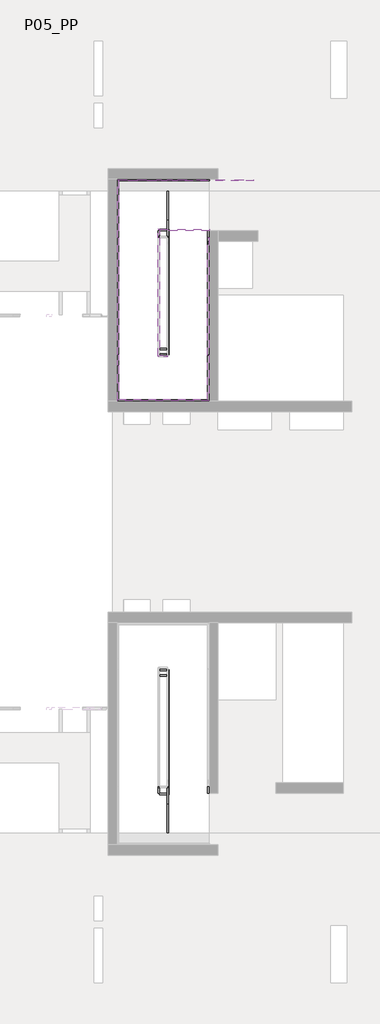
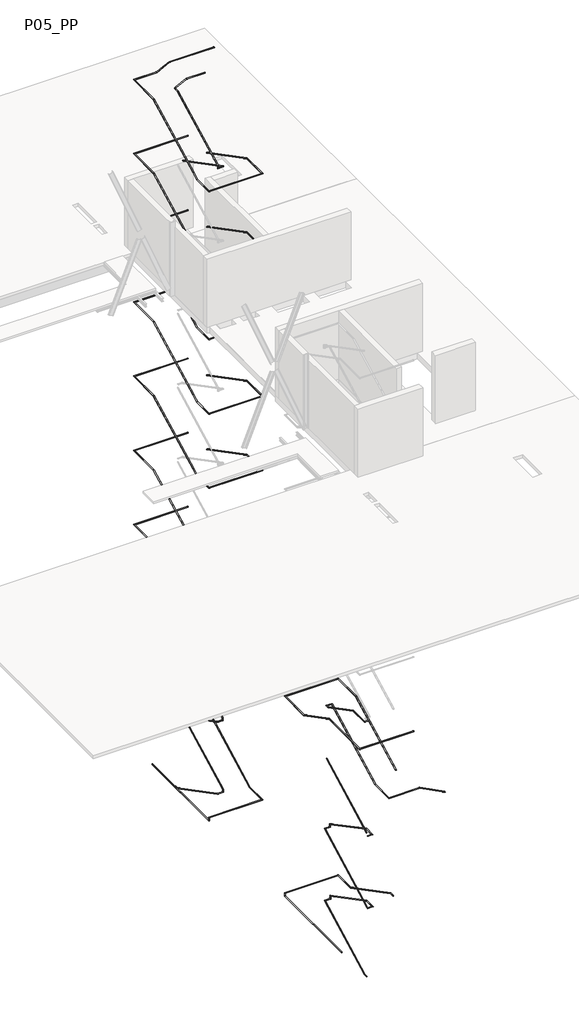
# One storey, part 7 of 7: 15 railings.
"""IFC4 building model written with IfcOpenShell, lengths in millimetres."""

from ifc_helpers import new_model, si_unit, frame, origin, place, context, project, spatial, circle_curve, ellipse_curve, transform, mapped, element, save
from ifc_brep_helpers import plane_surface, cylinder_surface, advanced_brep
from components import railing_900mm_pipe_top_rail_91aa5f4a, railing_900mm_pipe_top_rail_560b4fde, railing_900mm_pipe_top_rail_b0c08502, railing_900mm_pipe_top_rail_e3d62f47, railing_900mm_pipe_top_rail_d9892091, railing_900mm_pipe_top_rail_f8b790fc, railing_900mm_pipe_top_rail_945ddb10, railing_900mm_pipe_top_rail_a4c81e61, railing_900mm_pipe_top_rail_01716a69, railing_900mm_pipe_top_rail_24617872, railing_900mm_pipe_top_rail_c506623c, railing_900mm_pipe_top_rail_b9cd46f8, railing_900mm_pipe_top_rail_68615e7b, railing_900mm_pipe_top_rail_45b8a4e9

model = new_model("IFC4")

# Units and contexts
model_context = context("Model", 3, world=origin())
ifc_project = project(units=[si_unit("LENGTHUNIT", "METRE", prefix="MILLI")], contexts=[model_context])

# Site, building, storey
site = spatial("IfcSite", under=ifc_project)
building = spatial("IfcBuilding", under=site)
storey = spatial("IfcBuildingStorey", under=building, Name="P05_PP", Elevation=26160.0)

# Railings
placement = place(None, origin())
element("IfcRailing", 1, ObjectType="900mm_Pipe_Top Rail", at=placement, inside=storey, context=model_context, shape_type="AdvancedBrep", body=[
    advanced_brep(
    [(-10835.2146087, 12214.8932827, 27293.6999018), (-10795.2146087, 12214.8932827, 27293.6999018), (-10835.2146087, 8909.9970935, 29015.0000003), (-10795.2146087, 8909.9970935, 29015.0000003), (-10835.2146087, 7659.8960687, 29015.0000003), (-10795.2146087, 7619.8960687, 29015.0000003), (-13345.3216429, 7659.8960687, 29015.0000003), (-13385.3216429, 7619.8960687, 29015.0000003), (-13345.3216429, 8619.7894719, 29015.0000003), (-13385.3216429, 8619.7894719, 29015.0000003), (-13345.3216429, 8924.1319711, 29173.5117186), (-13385.3216429, 8924.1319711, 29173.5117186), (-13345.3216429, 12219.7894719, 30890.0000003), (-13385.3216429, 12219.7894719, 30890.0000003), (-13345.3216429, 13819.8960677, 30890.0000003), (-13385.3216429, 13859.8960677, 30890.0000003), (-10790.2146087, 13819.8960677, 30890.0000003), (-10790.2146087, 13859.8960677, 30890.0000003)],
    [
        (0, 1, ellipse_curve(frame((-10815.2146087, 12214.8932827, 27293.6999018), z_axis=(0.0, 1.0, 0.0), x_axis=(0.0, 0.0, -1.0)), 22.5500985, 20.0)),
        (1, 0, ellipse_curve(frame((-10815.2146087, 12214.8932827, 27293.6999018), z_axis=(0.0, 1.0, 0.0), x_axis=(0.0, 0.0, -1.0)), 22.5500985, 20.0)),
        (0, 2),
        (2, 3, ellipse_curve(frame((-10815.2146087, 8909.9970935, 29015.0000003), z_axis=(0.0, 0.9713171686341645, -0.23778763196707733), x_axis=(0.0, -0.2377876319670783, -0.9713171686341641)), 20.5905966, 20.0)),
        (3, 1),
        (3, 2, ellipse_curve(frame((-10815.2146087, 8909.9970935, 29015.0000003), z_axis=(0.0, 0.9713171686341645, -0.23778763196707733), x_axis=(0.0, -0.2377876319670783, -0.9713171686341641)), 20.5905966, 20.0)),
        (2, 4),
        (4, 5, ellipse_curve(frame((-10815.2146087, 7639.8960687, 29015.0000003), z_axis=(0.70710678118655, 0.707106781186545, 0.0), x_axis=(-0.707106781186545, 0.70710678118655, 0.0)), 28.2842712, 20.0)),
        (5, 3),
        (5, 4, ellipse_curve(frame((-10815.2146087, 7639.8960687, 29015.0000003), z_axis=(0.70710678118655, 0.707106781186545, 0.0), x_axis=(-0.707106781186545, 0.70710678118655, 0.0)), 28.2842712, 20.0)),
        (4, 6),
        (6, 7, ellipse_curve(frame((-13365.3216429, 7639.8960687, 29015.0000003), z_axis=(0.707106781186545, -0.70710678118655, 0.0), x_axis=(0.70710678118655, 0.707106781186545, 0.0)), 28.2842712, 20.0)),
        (7, 5),
        (7, 6, ellipse_curve(frame((-13365.3216429, 7639.8960687, 29015.0000003), z_axis=(0.707106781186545, -0.70710678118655, 0.0), x_axis=(0.70710678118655, 0.707106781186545, 0.0)), 28.2842712, 20.0)),
        (6, 8),
        (8, 9, ellipse_curve(frame((-13365.3216429, 8619.7894719, 29015.0000003), z_axis=(0.0, -0.9713171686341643, -0.23778763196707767), x_axis=(0.0, -0.23778763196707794, 0.9713171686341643)), 20.5905966, 20.0)),
        (9, 7),
        (9, 8, ellipse_curve(frame((-13365.3216429, 8619.7894719, 29015.0000003), z_axis=(0.0, -0.9713171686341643, -0.23778763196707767), x_axis=(0.0, -0.23778763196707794, 0.9713171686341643)), 20.5905966, 20.0)),
        (8, 10),
        (10, 11, circle_curve(frame((-13365.3216429, 8924.1319711, 29173.5117186), z_axis=(0.0, -0.8869140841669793, -0.4619344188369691), x_axis=(-1.0, 0.0, 0.0)), 20.0)),
        (11, 9),
        (11, 10, circle_curve(frame((-13365.3216429, 8924.1319711, 29173.5117186), z_axis=(0.0, -0.8869140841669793, -0.4619344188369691), x_axis=(-1.0, 0.0, 0.0)), 20.0)),
        (10, 12),
        (12, 13, ellipse_curve(frame((-13365.3216429, 12219.7894719, 30890.0000003), z_axis=(0.0, -0.9713171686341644, -0.23778763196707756), x_axis=(0.0, 0.23778763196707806, -0.9713171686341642)), 20.5905966, 20.0)),
        (13, 11),
        (13, 12, ellipse_curve(frame((-13365.3216429, 12219.7894719, 30890.0000003), z_axis=(0.0, -0.9713171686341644, -0.23778763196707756), x_axis=(0.0, 0.23778763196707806, -0.9713171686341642)), 20.5905966, 20.0)),
        (12, 14),
        (14, 15, ellipse_curve(frame((-13365.3216429, 13839.8960677, 30890.0000003), z_axis=(-0.7071067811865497, -0.7071067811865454, 0.0), x_axis=(0.7071067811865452, -0.7071067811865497, 0.0)), 28.2842712, 20.0)),
        (15, 13),
        (15, 14, ellipse_curve(frame((-13365.3216429, 13839.8960677, 30890.0000003), z_axis=(-0.7071067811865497, -0.7071067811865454, 0.0), x_axis=(0.7071067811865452, -0.7071067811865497, 0.0)), 28.2842712, 20.0)),
        (16, 17, circle_curve(frame((-10790.2146087, 13839.8960677, 30890.0000003), z_axis=(1.0, 0.0, 0.0), x_axis=(0.0, 1.0, 0.0)), 20.0)),
        (17, 16, circle_curve(frame((-10790.2146087, 13839.8960677, 30890.0000003), z_axis=(1.0, 0.0, 0.0), x_axis=(0.0, 1.0, 0.0)), 20.0)),
        (14, 16),
        (17, 15),
    ],
    [
        plane_surface(frame((-10815.2146087, 12214.8932827, 27316.2500003), z_axis=(0.0, 1.0, 0.0), x_axis=(0.0, 0.0, -1.0))),
        cylinder_surface(frame((-10815.2146087, 12205.6545943, 27298.5117186), z_axis=(0.0, 0.8869140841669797, -0.46193441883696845), x_axis=(1.0, 0.0, 0.0)), 20.0),
        cylinder_surface(frame((-10815.2146087, 8914.8932827, 29015.0000003), z_axis=(0.0, 1.0, 0.0), x_axis=(1.0, 0.0, 0.0)), 20.0),
        cylinder_surface(frame((-10815.2146087, 7639.8960687, 29015.0000003), z_axis=(1.0, 0.0, 0.0), x_axis=(0.0, -1.0, 0.0)), 20.0),
        cylinder_surface(frame((-13365.3216429, 7639.8960687, 29015.0000003), z_axis=(0.0, -1.0, 0.0), x_axis=(-1.0, 0.0, 0.0)), 20.0),
        cylinder_surface(frame((-13365.3216429, 8624.1319711, 29017.2617186), z_axis=(0.0, -0.8869140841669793, -0.4619344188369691), x_axis=(-1.0, 0.0, 0.0)), 20.0),
        cylinder_surface(frame((-13365.3216429, 8924.1319711, 29173.5117186), z_axis=(0.0, -0.8869140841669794, -0.4619344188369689), x_axis=(-1.0, 0.0, 0.0)), 20.0),
        cylinder_surface(frame((-13365.3216429, 12214.8932827, 30890.0000003), z_axis=(0.0, -1.0, 0.0), x_axis=(-1.0, 0.0, 0.0)), 20.0),
        plane_surface(frame((-10790.2146087, 13839.8960677, 30910.0000003), z_axis=(1.0, 0.0, 0.0), x_axis=(0.0, 1.0, 0.0))),
        cylinder_surface(frame((-13365.3216429, 13839.8960677, 30890.0000003), z_axis=(-1.0, 0.0, 0.0), x_axis=(0.0, 1.0, 0.0)), 20.0),
    ],
    [
        (0, [[1, 2]]),
        (1, [[-1, 3, 4, 5]]),
        (1, [[-2, -5, 6, -3]]),
        (2, [[-4, 7, 8, 9]]),
        (2, [[-6, -9, 10, -7]]),
        (3, [[-8, 11, 12, 13]]),
        (3, [[-10, -13, 14, -11]]),
        (4, [[-12, 15, 16, 17]]),
        (4, [[-14, -17, 18, -15]]),
        (5, [[-16, 19, 20, 21]]),
        (5, [[-18, -21, 22, -19]]),
        (6, [[-20, 23, 24, 25]]),
        (6, [[-22, -25, 26, -23]]),
        (7, [[-24, 27, 28, 29]]),
        (7, [[-26, -29, 30, -27]]),
        (8, [[31, 32]]),
        (9, [[-28, 33, -32, 34]]),
        (9, [[-30, -34, -31, -33]]),
    ],
),
    advanced_brep(
    [(-10835.2146087, 12214.8932827, 23543.6999018), (-10795.2146087, 12214.8932827, 23543.6999018), (-10835.2146087, 8909.9970935, 25265.0000003), (-10795.2146087, 8909.9970935, 25265.0000003), (-10835.2146087, 7659.8960687, 25265.0000003), (-10795.2146087, 7619.8960687, 25265.0000003), (-13345.3216429, 7659.8960687, 25265.0000003), (-13385.3216429, 7619.8960687, 25265.0000003), (-13345.3216429, 8619.7894719, 25265.0000003), (-13385.3216429, 8619.7894719, 25265.0000003), (-13345.3216429, 8924.1319711, 25423.5117186), (-13385.3216429, 8924.1319711, 25423.5117186), (-13345.3216429, 12219.7894719, 27140.0000003), (-13385.3216429, 12219.7894719, 27140.0000003), (-13345.3216429, 13819.8960677, 27140.0000003), (-13385.3216429, 13859.8960677, 27140.0000003), (-10790.2146087, 13819.8960677, 27140.0000003), (-10790.2146087, 13859.8960677, 27140.0000003)],
    [
        (0, 1, ellipse_curve(frame((-10815.2146087, 12214.8932827, 23543.6999018), z_axis=(0.0, 1.0, 0.0), x_axis=(0.0, 0.0, -1.0)), 22.5500985, 20.0)),
        (1, 0, ellipse_curve(frame((-10815.2146087, 12214.8932827, 23543.6999018), z_axis=(0.0, 1.0, 0.0), x_axis=(0.0, 0.0, -1.0)), 22.5500985, 20.0)),
        (0, 2),
        (2, 3, ellipse_curve(frame((-10815.2146087, 8909.9970935, 25265.0000003), z_axis=(0.0, 0.9713171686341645, -0.23778763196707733), x_axis=(0.0, -0.2377876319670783, -0.9713171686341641)), 20.5905966, 20.0)),
        (3, 1),
        (3, 2, ellipse_curve(frame((-10815.2146087, 8909.9970935, 25265.0000003), z_axis=(0.0, 0.9713171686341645, -0.23778763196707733), x_axis=(0.0, -0.2377876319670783, -0.9713171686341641)), 20.5905966, 20.0)),
        (2, 4),
        (4, 5, ellipse_curve(frame((-10815.2146087, 7639.8960687, 25265.0000003), z_axis=(0.70710678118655, 0.707106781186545, 0.0), x_axis=(-0.707106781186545, 0.70710678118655, 0.0)), 28.2842712, 20.0)),
        (5, 3),
        (5, 4, ellipse_curve(frame((-10815.2146087, 7639.8960687, 25265.0000003), z_axis=(0.70710678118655, 0.707106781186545, 0.0), x_axis=(-0.707106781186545, 0.70710678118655, 0.0)), 28.2842712, 20.0)),
        (4, 6),
        (6, 7, ellipse_curve(frame((-13365.3216429, 7639.8960687, 25265.0000003), z_axis=(0.707106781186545, -0.70710678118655, 0.0), x_axis=(0.70710678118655, 0.707106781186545, 0.0)), 28.2842712, 20.0)),
        (7, 5),
        (7, 6, ellipse_curve(frame((-13365.3216429, 7639.8960687, 25265.0000003), z_axis=(0.707106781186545, -0.70710678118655, 0.0), x_axis=(0.70710678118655, 0.707106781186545, 0.0)), 28.2842712, 20.0)),
        (6, 8),
        (8, 9, ellipse_curve(frame((-13365.3216429, 8619.7894719, 25265.0000003), z_axis=(0.0, -0.9713171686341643, -0.23778763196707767), x_axis=(0.0, -0.23778763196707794, 0.9713171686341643)), 20.5905966, 20.0)),
        (9, 7),
        (9, 8, ellipse_curve(frame((-13365.3216429, 8619.7894719, 25265.0000003), z_axis=(0.0, -0.9713171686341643, -0.23778763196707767), x_axis=(0.0, -0.23778763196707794, 0.9713171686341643)), 20.5905966, 20.0)),
        (8, 10),
        (10, 11, circle_curve(frame((-13365.3216429, 8924.1319711, 25423.5117186), z_axis=(0.0, -0.8869140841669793, -0.4619344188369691), x_axis=(-1.0, 0.0, 0.0)), 20.0)),
        (11, 9),
        (11, 10, circle_curve(frame((-13365.3216429, 8924.1319711, 25423.5117186), z_axis=(0.0, -0.8869140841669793, -0.4619344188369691), x_axis=(-1.0, 0.0, 0.0)), 20.0)),
        (10, 12),
        (12, 13, ellipse_curve(frame((-13365.3216429, 12219.7894719, 27140.0000003), z_axis=(0.0, -0.9713171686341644, -0.23778763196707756), x_axis=(0.0, 0.23778763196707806, -0.9713171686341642)), 20.5905966, 20.0)),
        (13, 11),
        (13, 12, ellipse_curve(frame((-13365.3216429, 12219.7894719, 27140.0000003), z_axis=(0.0, -0.9713171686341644, -0.23778763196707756), x_axis=(0.0, 0.23778763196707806, -0.9713171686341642)), 20.5905966, 20.0)),
        (12, 14),
        (14, 15, ellipse_curve(frame((-13365.3216429, 13839.8960677, 27140.0000003), z_axis=(-0.7071067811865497, -0.7071067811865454, 0.0), x_axis=(0.7071067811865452, -0.7071067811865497, 0.0)), 28.2842712, 20.0)),
        (15, 13),
        (15, 14, ellipse_curve(frame((-13365.3216429, 13839.8960677, 27140.0000003), z_axis=(-0.7071067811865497, -0.7071067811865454, 0.0), x_axis=(0.7071067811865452, -0.7071067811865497, 0.0)), 28.2842712, 20.0)),
        (16, 17, circle_curve(frame((-10790.2146087, 13839.8960677, 27140.0000003), z_axis=(1.0, 0.0, 0.0), x_axis=(0.0, 1.0, 0.0)), 20.0)),
        (17, 16, circle_curve(frame((-10790.2146087, 13839.8960677, 27140.0000003), z_axis=(1.0, 0.0, 0.0), x_axis=(0.0, 1.0, 0.0)), 20.0)),
        (14, 16),
        (17, 15),
    ],
    [
        plane_surface(frame((-10815.2146087, 12214.8932827, 23566.2500003), z_axis=(0.0, 1.0, 0.0), x_axis=(0.0, 0.0, -1.0))),
        cylinder_surface(frame((-10815.2146087, 12205.6545943, 23548.5117186), z_axis=(0.0, 0.8869140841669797, -0.46193441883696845), x_axis=(1.0, 0.0, 0.0)), 20.0),
        cylinder_surface(frame((-10815.2146087, 8914.8932827, 25265.0000003), z_axis=(0.0, 1.0, 0.0), x_axis=(1.0, 0.0, 0.0)), 20.0),
        cylinder_surface(frame((-10815.2146087, 7639.8960687, 25265.0000003), z_axis=(1.0, 0.0, 0.0), x_axis=(0.0, -1.0, 0.0)), 20.0),
        cylinder_surface(frame((-13365.3216429, 7639.8960687, 25265.0000003), z_axis=(0.0, -1.0, 0.0), x_axis=(-1.0, 0.0, 0.0)), 20.0),
        cylinder_surface(frame((-13365.3216429, 8624.1319711, 25267.2617186), z_axis=(0.0, -0.8869140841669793, -0.4619344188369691), x_axis=(-1.0, 0.0, 0.0)), 20.0),
        cylinder_surface(frame((-13365.3216429, 8924.1319711, 25423.5117186), z_axis=(0.0, -0.8869140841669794, -0.4619344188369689), x_axis=(-1.0, 0.0, 0.0)), 20.0),
        cylinder_surface(frame((-13365.3216429, 12214.8932827, 27140.0000003), z_axis=(0.0, -1.0, 0.0), x_axis=(-1.0, 0.0, 0.0)), 20.0),
        plane_surface(frame((-10790.2146087, 13839.8960677, 27160.0000003), z_axis=(1.0, 0.0, 0.0), x_axis=(0.0, 1.0, 0.0))),
        cylinder_surface(frame((-13365.3216429, 13839.8960677, 27140.0000003), z_axis=(-1.0, 0.0, 0.0), x_axis=(0.0, 1.0, 0.0)), 20.0),
    ],
    [
        (0, [[1, 2]]),
        (1, [[-1, 3, 4, 5]]),
        (1, [[-2, -5, 6, -3]]),
        (2, [[-4, 7, 8, 9]]),
        (2, [[-6, -9, 10, -7]]),
        (3, [[-8, 11, 12, 13]]),
        (3, [[-10, -13, 14, -11]]),
        (4, [[-12, 15, 16, 17]]),
        (4, [[-14, -17, 18, -15]]),
        (5, [[-16, 19, 20, 21]]),
        (5, [[-18, -21, 22, -19]]),
        (6, [[-20, 23, 24, 25]]),
        (6, [[-22, -25, 26, -23]]),
        (7, [[-24, 27, 28, 29]]),
        (7, [[-26, -29, 30, -27]]),
        (8, [[31, 32]]),
        (9, [[-28, 33, -32, 34]]),
        (9, [[-30, -34, -31, -33]]),
    ],
),
    advanced_brep(
    [(-10835.2146087, 12214.8932827, 19793.6999018), (-10795.2146087, 12214.8932827, 19793.6999018), (-10835.2146087, 8909.9970935, 21515.0000003), (-10795.2146087, 8909.9970935, 21515.0000003), (-10835.2146087, 7659.8960687, 21515.0000003), (-10795.2146087, 7619.8960687, 21515.0000003), (-13345.3216429, 7659.8960687, 21515.0000003), (-13385.3216429, 7619.8960687, 21515.0000003), (-13345.3216429, 8619.7894719, 21515.0000003), (-13385.3216429, 8619.7894719, 21515.0000003), (-13345.3216429, 8924.1319711, 21673.5117186), (-13385.3216429, 8924.1319711, 21673.5117186), (-13345.3216429, 12219.7894719, 23390.0000003), (-13385.3216429, 12219.7894719, 23390.0000003), (-13345.3216429, 13819.8960677, 23390.0000003), (-13385.3216429, 13859.8960677, 23390.0000003), (-10790.2146087, 13819.8960677, 23390.0000003), (-10790.2146087, 13859.8960677, 23390.0000003)],
    [
        (0, 1, ellipse_curve(frame((-10815.2146087, 12214.8932827, 19793.6999018), z_axis=(0.0, 1.0, 0.0), x_axis=(0.0, 0.0, -1.0)), 22.5500985, 20.0)),
        (1, 0, ellipse_curve(frame((-10815.2146087, 12214.8932827, 19793.6999018), z_axis=(0.0, 1.0, 0.0), x_axis=(0.0, 0.0, -1.0)), 22.5500985, 20.0)),
        (0, 2),
        (2, 3, ellipse_curve(frame((-10815.2146087, 8909.9970935, 21515.0000003), z_axis=(0.0, 0.9713171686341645, -0.23778763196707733), x_axis=(0.0, -0.2377876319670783, -0.9713171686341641)), 20.5905966, 20.0)),
        (3, 1),
        (3, 2, ellipse_curve(frame((-10815.2146087, 8909.9970935, 21515.0000003), z_axis=(0.0, 0.9713171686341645, -0.23778763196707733), x_axis=(0.0, -0.2377876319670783, -0.9713171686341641)), 20.5905966, 20.0)),
        (2, 4),
        (4, 5, ellipse_curve(frame((-10815.2146087, 7639.8960687, 21515.0000003), z_axis=(0.70710678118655, 0.707106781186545, 0.0), x_axis=(-0.707106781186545, 0.70710678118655, 0.0)), 28.2842712, 20.0)),
        (5, 3),
        (5, 4, ellipse_curve(frame((-10815.2146087, 7639.8960687, 21515.0000003), z_axis=(0.70710678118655, 0.707106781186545, 0.0), x_axis=(-0.707106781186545, 0.70710678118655, 0.0)), 28.2842712, 20.0)),
        (4, 6),
        (6, 7, ellipse_curve(frame((-13365.3216429, 7639.8960687, 21515.0000003), z_axis=(0.707106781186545, -0.70710678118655, 0.0), x_axis=(0.70710678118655, 0.707106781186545, 0.0)), 28.2842712, 20.0)),
        (7, 5),
        (7, 6, ellipse_curve(frame((-13365.3216429, 7639.8960687, 21515.0000003), z_axis=(0.707106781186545, -0.70710678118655, 0.0), x_axis=(0.70710678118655, 0.707106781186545, 0.0)), 28.2842712, 20.0)),
        (6, 8),
        (8, 9, ellipse_curve(frame((-13365.3216429, 8619.7894719, 21515.0000003), z_axis=(0.0, -0.9713171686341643, -0.23778763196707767), x_axis=(0.0, -0.23778763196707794, 0.9713171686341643)), 20.5905966, 20.0)),
        (9, 7),
        (9, 8, ellipse_curve(frame((-13365.3216429, 8619.7894719, 21515.0000003), z_axis=(0.0, -0.9713171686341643, -0.23778763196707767), x_axis=(0.0, -0.23778763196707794, 0.9713171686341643)), 20.5905966, 20.0)),
        (8, 10),
        (10, 11, circle_curve(frame((-13365.3216429, 8924.1319711, 21673.5117186), z_axis=(0.0, -0.8869140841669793, -0.4619344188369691), x_axis=(-1.0, 0.0, 0.0)), 20.0)),
        (11, 9),
        (11, 10, circle_curve(frame((-13365.3216429, 8924.1319711, 21673.5117186), z_axis=(0.0, -0.8869140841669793, -0.4619344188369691), x_axis=(-1.0, 0.0, 0.0)), 20.0)),
        (10, 12),
        (12, 13, ellipse_curve(frame((-13365.3216429, 12219.7894719, 23390.0000003), z_axis=(0.0, -0.9713171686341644, -0.23778763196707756), x_axis=(0.0, 0.23778763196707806, -0.9713171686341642)), 20.5905966, 20.0)),
        (13, 11),
        (13, 12, ellipse_curve(frame((-13365.3216429, 12219.7894719, 23390.0000003), z_axis=(0.0, -0.9713171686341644, -0.23778763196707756), x_axis=(0.0, 0.23778763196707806, -0.9713171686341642)), 20.5905966, 20.0)),
        (12, 14),
        (14, 15, ellipse_curve(frame((-13365.3216429, 13839.8960677, 23390.0000003), z_axis=(-0.7071067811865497, -0.7071067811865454, 0.0), x_axis=(0.7071067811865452, -0.7071067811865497, 0.0)), 28.2842712, 20.0)),
        (15, 13),
        (15, 14, ellipse_curve(frame((-13365.3216429, 13839.8960677, 23390.0000003), z_axis=(-0.7071067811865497, -0.7071067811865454, 0.0), x_axis=(0.7071067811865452, -0.7071067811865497, 0.0)), 28.2842712, 20.0)),
        (16, 17, circle_curve(frame((-10790.2146087, 13839.8960677, 23390.0000003), z_axis=(1.0, 0.0, 0.0), x_axis=(0.0, 1.0, 0.0)), 20.0)),
        (17, 16, circle_curve(frame((-10790.2146087, 13839.8960677, 23390.0000003), z_axis=(1.0, 0.0, 0.0), x_axis=(0.0, 1.0, 0.0)), 20.0)),
        (14, 16),
        (17, 15),
    ],
    [
        plane_surface(frame((-10815.2146087, 12214.8932827, 19816.2500003), z_axis=(0.0, 1.0, 0.0), x_axis=(0.0, 0.0, -1.0))),
        cylinder_surface(frame((-10815.2146087, 12205.6545943, 19798.5117186), z_axis=(0.0, 0.8869140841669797, -0.46193441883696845), x_axis=(1.0, 0.0, 0.0)), 20.0),
        cylinder_surface(frame((-10815.2146087, 8914.8932827, 21515.0000003), z_axis=(0.0, 1.0, 0.0), x_axis=(1.0, 0.0, 0.0)), 20.0),
        cylinder_surface(frame((-10815.2146087, 7639.8960687, 21515.0000003), z_axis=(1.0, 0.0, 0.0), x_axis=(0.0, -1.0, 0.0)), 20.0),
        cylinder_surface(frame((-13365.3216429, 7639.8960687, 21515.0000003), z_axis=(0.0, -1.0, 0.0), x_axis=(-1.0, 0.0, 0.0)), 20.0),
        cylinder_surface(frame((-13365.3216429, 8624.1319711, 21517.2617186), z_axis=(0.0, -0.8869140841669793, -0.4619344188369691), x_axis=(-1.0, 0.0, 0.0)), 20.0),
        cylinder_surface(frame((-13365.3216429, 8924.1319711, 21673.5117186), z_axis=(0.0, -0.8869140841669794, -0.4619344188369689), x_axis=(-1.0, 0.0, 0.0)), 20.0),
        cylinder_surface(frame((-13365.3216429, 12214.8932827, 23390.0000003), z_axis=(0.0, -1.0, 0.0), x_axis=(-1.0, 0.0, 0.0)), 20.0),
        plane_surface(frame((-10790.2146087, 13839.8960677, 23410.0000003), z_axis=(1.0, 0.0, 0.0), x_axis=(0.0, 1.0, 0.0))),
        cylinder_surface(frame((-13365.3216429, 13839.8960677, 23390.0000003), z_axis=(-1.0, 0.0, 0.0), x_axis=(0.0, 1.0, 0.0)), 20.0),
    ],
    [
        (0, [[1, 2]]),
        (1, [[-1, 3, 4, 5]]),
        (1, [[-2, -5, 6, -3]]),
        (2, [[-4, 7, 8, 9]]),
        (2, [[-6, -9, 10, -7]]),
        (3, [[-8, 11, 12, 13]]),
        (3, [[-10, -13, 14, -11]]),
        (4, [[-12, 15, 16, 17]]),
        (4, [[-14, -17, 18, -15]]),
        (5, [[-16, 19, 20, 21]]),
        (5, [[-18, -21, 22, -19]]),
        (6, [[-20, 23, 24, 25]]),
        (6, [[-22, -25, 26, -23]]),
        (7, [[-24, 27, 28, 29]]),
        (7, [[-26, -29, 30, -27]]),
        (8, [[31, 32]]),
        (9, [[-28, 33, -32, 34]]),
        (9, [[-30, -34, -31, -33]]),
    ],
),
    advanced_brep(
    [(-10835.2146087, 12214.8932827, 16043.6999018), (-10795.2146087, 12214.8932827, 16043.6999018), (-10835.2146087, 8909.9970935, 17765.0000003), (-10795.2146087, 8909.9970935, 17765.0000003), (-10835.2146087, 7659.8960687, 17765.0000003), (-10795.2146087, 7619.8960687, 17765.0000003), (-13345.3216429, 7659.8960687, 17765.0000003), (-13385.3216429, 7619.8960687, 17765.0000003), (-13345.3216429, 8619.7894719, 17765.0000003), (-13385.3216429, 8619.7894719, 17765.0000003), (-13345.3216429, 8924.1319711, 17923.5117186), (-13385.3216429, 8924.1319711, 17923.5117186), (-13345.3216429, 12219.7894719, 19640.0000003), (-13385.3216429, 12219.7894719, 19640.0000003), (-13345.3216429, 13819.8960677, 19640.0000003), (-13385.3216429, 13859.8960677, 19640.0000003), (-10790.2146087, 13819.8960677, 19640.0000003), (-10790.2146087, 13859.8960677, 19640.0000003)],
    [
        (0, 1, ellipse_curve(frame((-10815.2146087, 12214.8932827, 16043.6999018), z_axis=(0.0, 1.0, 0.0), x_axis=(0.0, 0.0, -1.0)), 22.5500985, 20.0)),
        (1, 0, ellipse_curve(frame((-10815.2146087, 12214.8932827, 16043.6999018), z_axis=(0.0, 1.0, 0.0), x_axis=(0.0, 0.0, -1.0)), 22.5500985, 20.0)),
        (0, 2),
        (2, 3, ellipse_curve(frame((-10815.2146087, 8909.9970935, 17765.0000003), z_axis=(0.0, 0.9713171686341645, -0.23778763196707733), x_axis=(0.0, -0.2377876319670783, -0.9713171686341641)), 20.5905966, 20.0)),
        (3, 1),
        (3, 2, ellipse_curve(frame((-10815.2146087, 8909.9970935, 17765.0000003), z_axis=(0.0, 0.9713171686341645, -0.23778763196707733), x_axis=(0.0, -0.2377876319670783, -0.9713171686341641)), 20.5905966, 20.0)),
        (2, 4),
        (4, 5, ellipse_curve(frame((-10815.2146087, 7639.8960687, 17765.0000003), z_axis=(0.70710678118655, 0.707106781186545, 0.0), x_axis=(-0.707106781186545, 0.70710678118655, 0.0)), 28.2842712, 20.0)),
        (5, 3),
        (5, 4, ellipse_curve(frame((-10815.2146087, 7639.8960687, 17765.0000003), z_axis=(0.70710678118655, 0.707106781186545, 0.0), x_axis=(-0.707106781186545, 0.70710678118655, 0.0)), 28.2842712, 20.0)),
        (4, 6),
        (6, 7, ellipse_curve(frame((-13365.3216429, 7639.8960687, 17765.0000003), z_axis=(0.707106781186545, -0.70710678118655, 0.0), x_axis=(0.70710678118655, 0.707106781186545, 0.0)), 28.2842712, 20.0)),
        (7, 5),
        (7, 6, ellipse_curve(frame((-13365.3216429, 7639.8960687, 17765.0000003), z_axis=(0.707106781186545, -0.70710678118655, 0.0), x_axis=(0.70710678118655, 0.707106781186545, 0.0)), 28.2842712, 20.0)),
        (6, 8),
        (8, 9, ellipse_curve(frame((-13365.3216429, 8619.7894719, 17765.0000003), z_axis=(0.0, -0.9713171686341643, -0.23778763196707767), x_axis=(0.0, -0.23778763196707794, 0.9713171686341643)), 20.5905966, 20.0)),
        (9, 7),
        (9, 8, ellipse_curve(frame((-13365.3216429, 8619.7894719, 17765.0000003), z_axis=(0.0, -0.9713171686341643, -0.23778763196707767), x_axis=(0.0, -0.23778763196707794, 0.9713171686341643)), 20.5905966, 20.0)),
        (8, 10),
        (10, 11, circle_curve(frame((-13365.3216429, 8924.1319711, 17923.5117186), z_axis=(0.0, -0.8869140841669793, -0.4619344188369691), x_axis=(-1.0, 0.0, 0.0)), 20.0)),
        (11, 9),
        (11, 10, circle_curve(frame((-13365.3216429, 8924.1319711, 17923.5117186), z_axis=(0.0, -0.8869140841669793, -0.4619344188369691), x_axis=(-1.0, 0.0, 0.0)), 20.0)),
        (10, 12),
        (12, 13, ellipse_curve(frame((-13365.3216429, 12219.7894719, 19640.0000003), z_axis=(0.0, -0.9713171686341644, -0.23778763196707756), x_axis=(0.0, 0.23778763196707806, -0.9713171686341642)), 20.5905966, 20.0)),
        (13, 11),
        (13, 12, ellipse_curve(frame((-13365.3216429, 12219.7894719, 19640.0000003), z_axis=(0.0, -0.9713171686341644, -0.23778763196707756), x_axis=(0.0, 0.23778763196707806, -0.9713171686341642)), 20.5905966, 20.0)),
        (12, 14),
        (14, 15, ellipse_curve(frame((-13365.3216429, 13839.8960677, 19640.0000003), z_axis=(-0.7071067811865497, -0.7071067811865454, 0.0), x_axis=(0.7071067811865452, -0.7071067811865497, 0.0)), 28.2842712, 20.0)),
        (15, 13),
        (15, 14, ellipse_curve(frame((-13365.3216429, 13839.8960677, 19640.0000003), z_axis=(-0.7071067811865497, -0.7071067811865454, 0.0), x_axis=(0.7071067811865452, -0.7071067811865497, 0.0)), 28.2842712, 20.0)),
        (16, 17, circle_curve(frame((-10790.2146087, 13839.8960677, 19640.0000003), z_axis=(1.0, 0.0, 0.0), x_axis=(0.0, 1.0, 0.0)), 20.0)),
        (17, 16, circle_curve(frame((-10790.2146087, 13839.8960677, 19640.0000003), z_axis=(1.0, 0.0, 0.0), x_axis=(0.0, 1.0, 0.0)), 20.0)),
        (14, 16),
        (17, 15),
    ],
    [
        plane_surface(frame((-10815.2146087, 12214.8932827, 16066.2500003), z_axis=(0.0, 1.0, 0.0), x_axis=(0.0, 0.0, -1.0))),
        cylinder_surface(frame((-10815.2146087, 12205.6545943, 16048.5117186), z_axis=(0.0, 0.8869140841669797, -0.46193441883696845), x_axis=(1.0, 0.0, 0.0)), 20.0),
        cylinder_surface(frame((-10815.2146087, 8914.8932827, 17765.0000003), z_axis=(0.0, 1.0, 0.0), x_axis=(1.0, 0.0, 0.0)), 20.0),
        cylinder_surface(frame((-10815.2146087, 7639.8960687, 17765.0000003), z_axis=(1.0, 0.0, 0.0), x_axis=(0.0, -1.0, 0.0)), 20.0),
        cylinder_surface(frame((-13365.3216429, 7639.8960687, 17765.0000003), z_axis=(0.0, -1.0, 0.0), x_axis=(-1.0, 0.0, 0.0)), 20.0),
        cylinder_surface(frame((-13365.3216429, 8624.1319711, 17767.2617186), z_axis=(0.0, -0.8869140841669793, -0.4619344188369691), x_axis=(-1.0, 0.0, 0.0)), 20.0),
        cylinder_surface(frame((-13365.3216429, 8924.1319711, 17923.5117186), z_axis=(0.0, -0.8869140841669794, -0.4619344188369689), x_axis=(-1.0, 0.0, 0.0)), 20.0),
        cylinder_surface(frame((-13365.3216429, 12214.8932827, 19640.0000003), z_axis=(0.0, -1.0, 0.0), x_axis=(-1.0, 0.0, 0.0)), 20.0),
        plane_surface(frame((-10790.2146087, 13839.8960677, 19660.0000003), z_axis=(1.0, 0.0, 0.0), x_axis=(0.0, 1.0, 0.0))),
        cylinder_surface(frame((-13365.3216429, 13839.8960677, 19640.0000003), z_axis=(-1.0, 0.0, 0.0), x_axis=(0.0, 1.0, 0.0)), 20.0),
    ],
    [
        (0, [[1, 2]]),
        (1, [[-1, 3, 4, 5]]),
        (1, [[-2, -5, 6, -3]]),
        (2, [[-4, 7, 8, 9]]),
        (2, [[-6, -9, 10, -7]]),
        (3, [[-8, 11, 12, 13]]),
        (3, [[-10, -13, 14, -11]]),
        (4, [[-12, 15, 16, 17]]),
        (4, [[-14, -17, 18, -15]]),
        (5, [[-16, 19, 20, 21]]),
        (5, [[-18, -21, 22, -19]]),
        (6, [[-20, 23, 24, 25]]),
        (6, [[-22, -25, 26, -23]]),
        (7, [[-24, 27, 28, 29]]),
        (7, [[-26, -29, 30, -27]]),
        (8, [[31, 32]]),
        (9, [[-28, 33, -32, 34]]),
        (9, [[-30, -34, -31, -33]]),
    ],
),
    advanced_brep(
    [(-10835.2146087, 12214.8932827, 12293.6999015), (-10795.2146087, 12214.8932827, 12293.6999015), (-10835.2146087, 8909.9970935, 14015.0), (-10795.2146087, 8909.9970935, 14015.0), (-10835.2146087, 7659.8960687, 14015.0), (-10795.2146087, 7619.8960687, 14015.0), (-13345.3216429, 7659.8960687, 14015.0), (-13385.3216429, 7619.8960687, 14015.0), (-13345.3216429, 8619.7894719, 14015.0), (-13385.3216429, 8619.7894719, 14015.0), (-13345.3216429, 8924.1319711, 14173.5117183), (-13385.3216429, 8924.1319711, 14173.5117183), (-13345.3216429, 12219.7894719, 15890.0), (-13385.3216429, 12219.7894719, 15890.0), (-13345.3216429, 13819.8960677, 15890.0), (-13385.3216429, 13859.8960677, 15890.0), (-10790.2146087, 13819.8960677, 15890.0), (-10790.2146087, 13859.8960677, 15890.0)],
    [
        (0, 1, ellipse_curve(frame((-10815.2146087, 12214.8932827, 12293.6999015), z_axis=(0.0, 1.0, 0.0), x_axis=(0.0, 0.0, -1.0)), 22.5500985, 20.0)),
        (1, 0, ellipse_curve(frame((-10815.2146087, 12214.8932827, 12293.6999015), z_axis=(0.0, 1.0, 0.0), x_axis=(0.0, 0.0, -1.0)), 22.5500985, 20.0)),
        (0, 2),
        (2, 3, ellipse_curve(frame((-10815.2146087, 8909.9970935, 14015.0), z_axis=(0.0, 0.9713171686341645, -0.23778763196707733), x_axis=(0.0, -0.2377876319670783, -0.9713171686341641)), 20.5905966, 20.0)),
        (3, 1),
        (3, 2, ellipse_curve(frame((-10815.2146087, 8909.9970935, 14015.0), z_axis=(0.0, 0.9713171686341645, -0.23778763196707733), x_axis=(0.0, -0.2377876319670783, -0.9713171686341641)), 20.5905966, 20.0)),
        (2, 4),
        (4, 5, ellipse_curve(frame((-10815.2146087, 7639.8960687, 14015.0), z_axis=(0.70710678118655, 0.707106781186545, 0.0), x_axis=(-0.707106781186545, 0.70710678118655, 0.0)), 28.2842712, 20.0)),
        (5, 3),
        (5, 4, ellipse_curve(frame((-10815.2146087, 7639.8960687, 14015.0), z_axis=(0.70710678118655, 0.707106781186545, 0.0), x_axis=(-0.707106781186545, 0.70710678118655, 0.0)), 28.2842712, 20.0)),
        (4, 6),
        (6, 7, ellipse_curve(frame((-13365.3216429, 7639.8960687, 14015.0), z_axis=(0.707106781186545, -0.70710678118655, 0.0), x_axis=(0.70710678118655, 0.707106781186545, 0.0)), 28.2842712, 20.0)),
        (7, 5),
        (7, 6, ellipse_curve(frame((-13365.3216429, 7639.8960687, 14015.0), z_axis=(0.707106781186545, -0.70710678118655, 0.0), x_axis=(0.70710678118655, 0.707106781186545, 0.0)), 28.2842712, 20.0)),
        (6, 8),
        (8, 9, ellipse_curve(frame((-13365.3216429, 8619.7894719, 14015.0), z_axis=(0.0, -0.9713171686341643, -0.23778763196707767), x_axis=(0.0, -0.23778763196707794, 0.9713171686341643)), 20.5905966, 20.0)),
        (9, 7),
        (9, 8, ellipse_curve(frame((-13365.3216429, 8619.7894719, 14015.0), z_axis=(0.0, -0.9713171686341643, -0.23778763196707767), x_axis=(0.0, -0.23778763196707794, 0.9713171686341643)), 20.5905966, 20.0)),
        (8, 10),
        (10, 11, circle_curve(frame((-13365.3216429, 8924.1319711, 14173.5117183), z_axis=(0.0, -0.8869140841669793, -0.4619344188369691), x_axis=(-1.0, 0.0, 0.0)), 20.0)),
        (11, 9),
        (11, 10, circle_curve(frame((-13365.3216429, 8924.1319711, 14173.5117183), z_axis=(0.0, -0.8869140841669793, -0.4619344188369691), x_axis=(-1.0, 0.0, 0.0)), 20.0)),
        (10, 12),
        (12, 13, ellipse_curve(frame((-13365.3216429, 12219.7894719, 15890.0), z_axis=(0.0, -0.9713171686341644, -0.23778763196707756), x_axis=(0.0, 0.23778763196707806, -0.9713171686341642)), 20.5905966, 20.0)),
        (13, 11),
        (13, 12, ellipse_curve(frame((-13365.3216429, 12219.7894719, 15890.0), z_axis=(0.0, -0.9713171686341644, -0.23778763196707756), x_axis=(0.0, 0.23778763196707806, -0.9713171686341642)), 20.5905966, 20.0)),
        (12, 14),
        (14, 15, ellipse_curve(frame((-13365.3216429, 13839.8960677, 15890.0), z_axis=(-0.7071067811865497, -0.7071067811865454, 0.0), x_axis=(0.7071067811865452, -0.7071067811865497, 0.0)), 28.2842712, 20.0)),
        (15, 13),
        (15, 14, ellipse_curve(frame((-13365.3216429, 13839.8960677, 15890.0), z_axis=(-0.7071067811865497, -0.7071067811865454, 0.0), x_axis=(0.7071067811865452, -0.7071067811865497, 0.0)), 28.2842712, 20.0)),
        (16, 17, circle_curve(frame((-10790.2146087, 13839.8960677, 15890.0), z_axis=(1.0, 0.0, 0.0), x_axis=(0.0, 1.0, 0.0)), 20.0)),
        (17, 16, circle_curve(frame((-10790.2146087, 13839.8960677, 15890.0), z_axis=(1.0, 0.0, 0.0), x_axis=(0.0, 1.0, 0.0)), 20.0)),
        (14, 16),
        (17, 15),
    ],
    [
        plane_surface(frame((-10815.2146087, 12214.8932827, 12316.25), z_axis=(0.0, 1.0, 0.0), x_axis=(0.0, 0.0, -1.0))),
        cylinder_surface(frame((-10815.2146087, 12205.6545943, 12298.5117183), z_axis=(0.0, 0.8869140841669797, -0.46193441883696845), x_axis=(1.0, 0.0, 0.0)), 20.0),
        cylinder_surface(frame((-10815.2146087, 8914.8932827, 14015.0), z_axis=(0.0, 1.0, 0.0), x_axis=(1.0, 0.0, 0.0)), 20.0),
        cylinder_surface(frame((-10815.2146087, 7639.8960687, 14015.0), z_axis=(1.0, 0.0, 0.0), x_axis=(0.0, -1.0, 0.0)), 20.0),
        cylinder_surface(frame((-13365.3216429, 7639.8960687, 14015.0), z_axis=(0.0, -1.0, 0.0), x_axis=(-1.0, 0.0, 0.0)), 20.0),
        cylinder_surface(frame((-13365.3216429, 8624.1319711, 14017.2617183), z_axis=(0.0, -0.8869140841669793, -0.4619344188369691), x_axis=(-1.0, 0.0, 0.0)), 20.0),
        cylinder_surface(frame((-13365.3216429, 8924.1319711, 14173.5117183), z_axis=(0.0, -0.8869140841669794, -0.4619344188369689), x_axis=(-1.0, 0.0, 0.0)), 20.0),
        cylinder_surface(frame((-13365.3216429, 12214.8932827, 15890.0), z_axis=(0.0, -1.0, 0.0), x_axis=(-1.0, 0.0, 0.0)), 20.0),
        plane_surface(frame((-10790.2146087, 13839.8960677, 15910.0), z_axis=(1.0, 0.0, 0.0), x_axis=(0.0, 1.0, 0.0))),
        cylinder_surface(frame((-13365.3216429, 13839.8960677, 15890.0), z_axis=(-1.0, 0.0, 0.0), x_axis=(0.0, 1.0, 0.0)), 20.0),
    ],
    [
        (0, [[1, 2]]),
        (1, [[-1, 3, 4, 5]]),
        (1, [[-2, -5, 6, -3]]),
        (2, [[-4, 7, 8, 9]]),
        (2, [[-6, -9, 10, -7]]),
        (3, [[-8, 11, 12, 13]]),
        (3, [[-10, -13, 14, -11]]),
        (4, [[-12, 15, 16, 17]]),
        (4, [[-14, -17, 18, -15]]),
        (5, [[-16, 19, 20, 21]]),
        (5, [[-18, -21, 22, -19]]),
        (6, [[-20, 23, 24, 25]]),
        (6, [[-22, -25, 26, -23]]),
        (7, [[-24, 27, 28, 29]]),
        (7, [[-26, -29, 30, -27]]),
        (8, [[31, 32]]),
        (9, [[-28, 33, -32, 34]]),
        (9, [[-30, -34, -31, -33]]),
    ],
),
])
railing_900mm_pipe_top_rail_shape = railing_900mm_pipe_top_rail_91aa5f4a(model_context)
element("IfcRailing", 2, ObjectType="900mm_Pipe_Top Rail", at=placement, inside=storey, context=model_context, shape_type="MappedRepresentation", body=[
    mapped(railing_900mm_pipe_top_rail_shape, transform((0.0, 0.0, 0.0), x_axis=(1.0, 0.0, 0.0), y_axis=(0.0, 1.0, 0.0), z_axis=(0.0, 0.0, 1.0))),
])
railing_900mm_pipe_top_rail_2_shape = railing_900mm_pipe_top_rail_560b4fde(model_context)
element("IfcRailing", 3, ObjectType="900mm_Pipe_Top Rail", at=placement, inside=storey, context=model_context, shape_type="MappedRepresentation", body=[
    mapped(railing_900mm_pipe_top_rail_2_shape, transform((0.0, 0.0, 0.0), x_axis=(1.0, 0.0, 0.0), y_axis=(0.0, 1.0, 0.0), z_axis=(0.0, 0.0, 1.0))),
])
railing_900mm_pipe_top_rail_3_shape = railing_900mm_pipe_top_rail_b0c08502(model_context)
element("IfcRailing", 4, ObjectType="900mm_Pipe_Top Rail", at=placement, inside=storey, context=model_context, shape_type="MappedRepresentation", body=[
    mapped(railing_900mm_pipe_top_rail_3_shape, transform((0.0, 0.0, 0.0), x_axis=(1.0, 0.0, 0.0), y_axis=(0.0, 1.0, 0.0), z_axis=(0.0, 0.0, 1.0))),
])
railing_900mm_pipe_top_rail_4_shape = railing_900mm_pipe_top_rail_e3d62f47(model_context)
element("IfcRailing", 5, ObjectType="900mm_Pipe_Top Rail", at=placement, inside=storey, context=model_context, shape_type="MappedRepresentation", body=[
    mapped(railing_900mm_pipe_top_rail_4_shape, transform((0.0, 0.0, 0.0), x_axis=(1.0, 0.0, 0.0), y_axis=(0.0, 1.0, 0.0), z_axis=(0.0, 0.0, 1.0))),
])
railing_900mm_pipe_top_rail_5_shape = railing_900mm_pipe_top_rail_d9892091(model_context)
element("IfcRailing", 6, ObjectType="900mm_Pipe_Top Rail", at=placement, inside=storey, context=model_context, shape_type="MappedRepresentation", body=[
    mapped(railing_900mm_pipe_top_rail_5_shape, transform((0.0, 0.0, 0.0), x_axis=(1.0, 0.0, 0.0), y_axis=(0.0, 1.0, 0.0), z_axis=(0.0, 0.0, 1.0))),
])
railing_900mm_pipe_top_rail_6_shape = railing_900mm_pipe_top_rail_f8b790fc(model_context)
element("IfcRailing", 7, ObjectType="900mm_Pipe_Top Rail", at=placement, inside=storey, context=model_context, shape_type="MappedRepresentation", body=[
    mapped(railing_900mm_pipe_top_rail_6_shape, transform((0.0, 0.0, 0.0), x_axis=(1.0, 0.0, 0.0), y_axis=(0.0, 1.0, 0.0), z_axis=(0.0, 0.0, 1.0))),
])
railing_900mm_pipe_top_rail_7_shape = railing_900mm_pipe_top_rail_945ddb10(model_context)
element("IfcRailing", 8, ObjectType="900mm_Pipe_Top Rail", at=placement, inside=storey, context=model_context, shape_type="MappedRepresentation", body=[
    mapped(railing_900mm_pipe_top_rail_7_shape, transform((0.0, 0.0, 0.0), x_axis=(1.0, 0.0, 0.0), y_axis=(0.0, 1.0, 0.0), z_axis=(0.0, 0.0, 1.0))),
])
railing_900mm_pipe_top_rail_8_shape = railing_900mm_pipe_top_rail_a4c81e61(model_context)
element("IfcRailing", 9, ObjectType="900mm_Pipe_Top Rail", at=placement, inside=storey, context=model_context, shape_type="MappedRepresentation", body=[
    mapped(railing_900mm_pipe_top_rail_8_shape, transform((0.0, 0.0, 0.0), x_axis=(1.0, 0.0, 0.0), y_axis=(0.0, 1.0, 0.0), z_axis=(0.0, 0.0, 1.0))),
])
railing_900mm_pipe_top_rail_9_shape = railing_900mm_pipe_top_rail_01716a69(model_context)
element("IfcRailing", 10, ObjectType="900mm_Pipe_Top Rail", at=placement, inside=storey, context=model_context, shape_type="MappedRepresentation", body=[
    mapped(railing_900mm_pipe_top_rail_9_shape, transform((0.0, 0.0, 0.0), x_axis=(1.0, 0.0, 0.0), y_axis=(0.0, 1.0, 0.0), z_axis=(0.0, 0.0, 1.0))),
])
railing_900mm_pipe_top_rail_10_shape = railing_900mm_pipe_top_rail_24617872(model_context)
element("IfcRailing", 11, ObjectType="900mm_Pipe_Top Rail", at=placement, inside=storey, context=model_context, shape_type="MappedRepresentation", body=[
    mapped(railing_900mm_pipe_top_rail_10_shape, transform((0.0, 0.0, 0.0), x_axis=(1.0, 0.0, 0.0), y_axis=(0.0, 1.0, 0.0), z_axis=(0.0, 0.0, 1.0))),
])
railing_900mm_pipe_top_rail_11_shape = railing_900mm_pipe_top_rail_c506623c(model_context)
element("IfcRailing", 12, ObjectType="900mm_Pipe_Top Rail", at=placement, inside=storey, context=model_context, shape_type="MappedRepresentation", body=[
    mapped(railing_900mm_pipe_top_rail_11_shape, transform((0.0, 0.0, 0.0), x_axis=(1.0, 0.0, 0.0), y_axis=(0.0, 1.0, 0.0), z_axis=(0.0, 0.0, 1.0))),
])
railing_900mm_pipe_top_rail_12_shape = railing_900mm_pipe_top_rail_b9cd46f8(model_context)
element("IfcRailing", 13, ObjectType="900mm_Pipe_Top Rail", at=placement, inside=storey, context=model_context, shape_type="MappedRepresentation", body=[
    mapped(railing_900mm_pipe_top_rail_12_shape, transform((0.0, 0.0, 0.0), x_axis=(1.0, 0.0, 0.0), y_axis=(0.0, 1.0, 0.0), z_axis=(0.0, 0.0, 1.0))),
])
railing_900mm_pipe_top_rail_13_shape = railing_900mm_pipe_top_rail_68615e7b(model_context)
element("IfcRailing", 14, ObjectType="900mm_Pipe_Top Rail", at=placement, inside=storey, context=model_context, shape_type="MappedRepresentation", body=[
    mapped(railing_900mm_pipe_top_rail_13_shape, transform((0.0, 0.0, 0.0), x_axis=(1.0, 0.0, 0.0), y_axis=(0.0, 1.0, 0.0), z_axis=(0.0, 0.0, 1.0))),
])
railing_900mm_pipe_top_rail_14_shape = railing_900mm_pipe_top_rail_45b8a4e9(model_context)
element("IfcRailing", 15, ObjectType="900mm_Pipe_Top Rail", at=placement, inside=storey, context=model_context, shape_type="MappedRepresentation", body=[
    mapped(railing_900mm_pipe_top_rail_14_shape, transform((0.0, 0.0, 0.0), x_axis=(1.0, 0.0, 0.0), y_axis=(0.0, 1.0, 0.0), z_axis=(0.0, 0.0, 1.0))),
])

save(model, "model.ifc")
